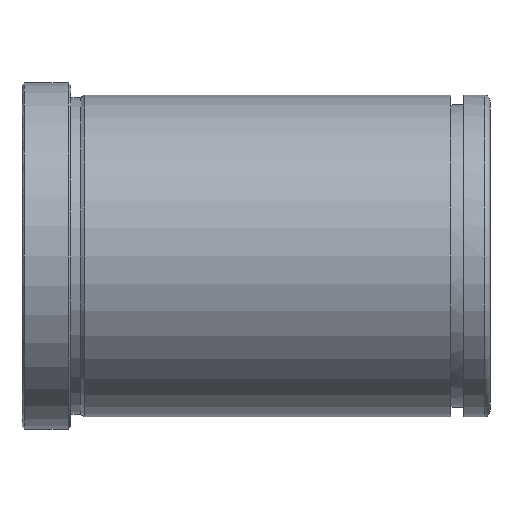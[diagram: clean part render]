
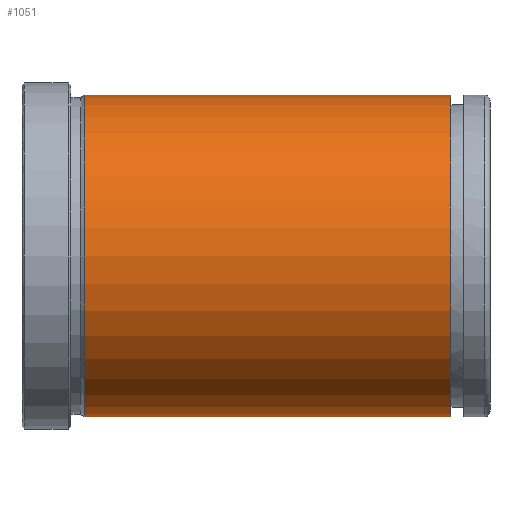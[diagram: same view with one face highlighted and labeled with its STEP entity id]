
A CAD part, front view. The second image highlights one B-rep face of the part: STEP entity #1051.
In plain terms, the highlighted cylindrical face has radius 33 mm (diameter 66 mm), a partial arc.
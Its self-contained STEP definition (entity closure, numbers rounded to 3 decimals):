
#851=CARTESIAN_POINT('Vertex',(12.866,0.,-33.)) ;
#858=CARTESIAN_POINT('Vertex',(12.866,0.,33.)) ;
#887=CARTESIAN_POINT('Axis2P3D Location',(12.866,0.,0.)) ;
#891=CARTESIAN_POINT('Vertex',(12.866,-33.,0.)) ;
#894=CARTESIAN_POINT('Axis2P3D Location',(12.866,0.,0.)) ;
#991=CARTESIAN_POINT('Line Origine',(192.,0.,33.)) ;
#995=CARTESIAN_POINT('Vertex',(88.,0.,33.)) ;
#1009=CARTESIAN_POINT('Vertex',(88.,0.,-33.)) ;
#1012=CARTESIAN_POINT('Line Origine',(192.,0.,-33.)) ;
#1026=CARTESIAN_POINT('Axis2P3D Location',(192.,0.,0.)) ;
#1031=CARTESIAN_POINT('Axis2P3D Location',(88.,0.,0.)) ;
#1035=CARTESIAN_POINT('Vertex',(88.,-33.,0.)) ;
#1038=CARTESIAN_POINT('Axis2P3D Location',(88.,0.,0.)) ;
#888=DIRECTION('Axis2P3D Direction',(1.,0.,-0.)) ;
#895=DIRECTION('Axis2P3D Direction',(1.,0.,-0.)) ;
#992=DIRECTION('Vector Direction',(-1.,0.,0.)) ;
#1013=DIRECTION('Vector Direction',(-1.,0.,0.)) ;
#1027=DIRECTION('Axis2P3D Direction',(-1.,-0.,-0.)) ;
#1028=DIRECTION('Axis2P3D XDirection',(0.,0.,-1.)) ;
#1032=DIRECTION('Axis2P3D Direction',(-1.,-0.,-0.)) ;
#1039=DIRECTION('Axis2P3D Direction',(-1.,-0.,-0.)) ;
#889=AXIS2_PLACEMENT_3D('Circle Axis2P3D',#887,#888,$) ;
#896=AXIS2_PLACEMENT_3D('Circle Axis2P3D',#894,#895,$) ;
#1029=AXIS2_PLACEMENT_3D('Cylinder Axis2P3D',#1026,#1027,#1028) ;
#1033=AXIS2_PLACEMENT_3D('Circle Axis2P3D',#1031,#1032,$) ;
#1040=AXIS2_PLACEMENT_3D('Circle Axis2P3D',#1038,#1039,$) ;
#1044=ORIENTED_EDGE('',*,*,#1016,.T.) ;
#1045=ORIENTED_EDGE('',*,*,#1037,.F.) ;
#1046=ORIENTED_EDGE('',*,*,#1042,.F.) ;
#1047=ORIENTED_EDGE('',*,*,#997,.T.) ;
#1048=ORIENTED_EDGE('',*,*,#898,.T.) ;
#1049=ORIENTED_EDGE('',*,*,#893,.T.) ;
#993=VECTOR('Line Direction',#992,1.) ;
#1014=VECTOR('Line Direction',#1013,1.) ;
#1051=ADVANCED_FACE('553-50X96',(#1050),#1030,.T.) ;
#890=CIRCLE('generated circle',#889,33.) ;
#897=CIRCLE('generated circle',#896,33.) ;
#1034=CIRCLE('generated circle',#1033,33.) ;
#1041=CIRCLE('generated circle',#1040,33.) ;
#1030=CYLINDRICAL_SURFACE('generated cylinder',#1029,33.) ;
#893=EDGE_CURVE('',#892,#852,#890,.T.) ;
#898=EDGE_CURVE('',#859,#892,#897,.T.) ;
#997=EDGE_CURVE('',#996,#859,#994,.T.) ;
#1016=EDGE_CURVE('',#852,#1010,#1015,.F.) ;
#1037=EDGE_CURVE('',#1036,#1010,#1034,.F.) ;
#1042=EDGE_CURVE('',#996,#1036,#1041,.F.) ;
#1043=EDGE_LOOP('',(#1044,#1045,#1046,#1047,#1048,#1049)) ;
#1050=FACE_OUTER_BOUND('',#1043,.T.) ;
#994=LINE('Line',#991,#993) ;
#1015=LINE('Line',#1012,#1014) ;
#852=VERTEX_POINT('',#851) ;
#859=VERTEX_POINT('',#858) ;
#892=VERTEX_POINT('',#891) ;
#996=VERTEX_POINT('',#995) ;
#1010=VERTEX_POINT('',#1009) ;
#1036=VERTEX_POINT('',#1035) ;
